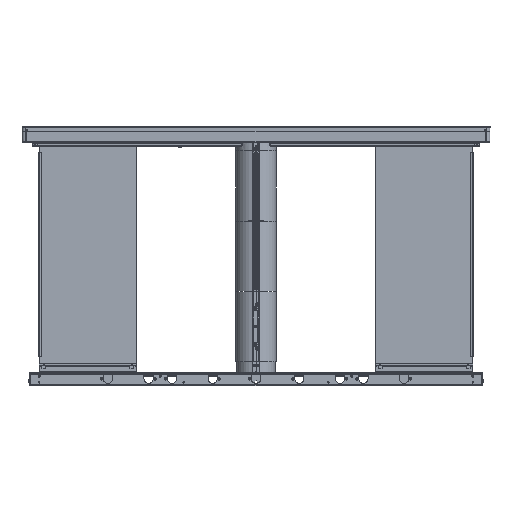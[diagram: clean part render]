
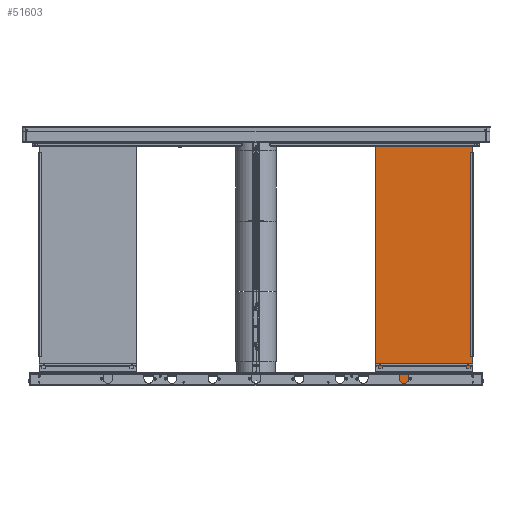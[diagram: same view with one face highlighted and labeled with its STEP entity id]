
A CAD part, top view. The second image highlights one B-rep face of the part: STEP entity #51603.
In plain terms, the highlighted planar face has unit normal (0, 0, 1) as drawn and (0, 0, -1) by its records, which use the part's own axes.
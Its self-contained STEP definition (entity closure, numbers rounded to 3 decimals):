
#129 = DIRECTION ( 'NONE',  ( 1., 0., 0. ) ) ;
#938 = CARTESIAN_POINT ( 'NONE',  ( 0., -427., -6. ) ) ;
#1561 = EDGE_CURVE ( 'NONE', #16846, #75870, #13153, .T. ) ;
#1626 = EDGE_CURVE ( 'NONE', #21088, #65474, #34141, .T. ) ;
#1930 = AXIS2_PLACEMENT_3D ( 'NONE', #72600, #6724, #58561 ) ;
#2759 = LINE ( 'NONE', #30409, #39268 ) ;
#3173 = FACE_BOUND ( 'NONE', #45511, .T. ) ;
#4157 = EDGE_CURVE ( 'NONE', #65474, #21088, #44475, .T. ) ;
#5748 = CARTESIAN_POINT ( 'NONE',  ( 184., -457., -6. ) ) ;
#5985 = VERTEX_POINT ( 'NONE', #5748 ) ;
#6399 = VECTOR ( 'NONE', #76410, 1000. ) ;
#6724 = DIRECTION ( 'NONE',  ( 0., 0., 1. ) ) ;
#9213 = VERTEX_POINT ( 'NONE', #84242 ) ;
#9472 = ORIENTED_EDGE ( 'NONE', *, *, #1626, .T. ) ;
#10504 = EDGE_CURVE ( 'NONE', #39227, #9213, #70192, .T. ) ;
#11592 = CARTESIAN_POINT ( 'NONE',  ( 125., -427., -6. ) ) ;
#13014 = CIRCLE ( 'NONE', #24234, 7.5 ) ;
#13153 = CIRCLE ( 'NONE', #1930, 7.5 ) ;
#14206 = VECTOR ( 'NONE', #79469, 1000. ) ;
#16327 = DIRECTION ( 'NONE',  ( 0., 0., 1. ) ) ;
#16846 = VERTEX_POINT ( 'NONE', #81472 ) ;
#17059 = AXIS2_PLACEMENT_3D ( 'NONE', #43024, #43445, #24596 ) ;
#17606 = EDGE_CURVE ( 'NONE', #24871, #5985, #2759, .T. ) ;
#18319 = EDGE_LOOP ( 'NONE', ( #29691, #84879, #62265, #36008 ) ) ;
#19882 = DIRECTION ( 'NONE',  ( 0., 0., 1. ) ) ;
#21088 = VERTEX_POINT ( 'NONE', #67923 ) ;
#21785 = VERTEX_POINT ( 'NONE', #85823 ) ;
#22792 = VECTOR ( 'NONE', #46217, 1000. ) ;
#23730 = DIRECTION ( 'NONE',  ( 0., 0., 1. ) ) ;
#24234 = AXIS2_PLACEMENT_3D ( 'NONE', #27309, #19882, #47515 ) ;
#24596 = DIRECTION ( 'NONE',  ( 1., 0., 0. ) ) ;
#24871 = VERTEX_POINT ( 'NONE', #63416 ) ;
#27309 = CARTESIAN_POINT ( 'NONE',  ( 0., -427., -6. ) ) ;
#27703 = DIRECTION ( 'NONE',  ( 0., 0., 1. ) ) ;
#29087 = AXIS2_PLACEMENT_3D ( 'NONE', #35158, #23730, #75109 ) ;
#29394 = ORIENTED_EDGE ( 'NONE', *, *, #1561, .T. ) ;
#29691 = ORIENTED_EDGE ( 'NONE', *, *, #34889, .T. ) ;
#30362 = FACE_BOUND ( 'NONE', #41969, .T. ) ;
#30409 = CARTESIAN_POINT ( 'NONE',  ( 184., -457.5, -6. ) ) ;
#32303 = EDGE_CURVE ( 'NONE', #75870, #16846, #32465, .T. ) ;
#32402 = EDGE_CURVE ( 'NONE', #5985, #21785, #52670, .T. ) ;
#32465 = CIRCLE ( 'NONE', #17059, 7.5 ) ;
#34141 = CIRCLE ( 'NONE', #36944, 7.5 ) ;
#34889 = EDGE_CURVE ( 'NONE', #21785, #57358, #44014, .T. ) ;
#34941 = EDGE_CURVE ( 'NONE', #9213, #39227, #13014, .T. ) ;
#35158 = CARTESIAN_POINT ( 'NONE',  ( 125., -427., -6. ) ) ;
#36008 = ORIENTED_EDGE ( 'NONE', *, *, #32402, .T. ) ;
#36312 = CARTESIAN_POINT ( 'NONE',  ( -117.5, -427., -6. ) ) ;
#36944 = AXIS2_PLACEMENT_3D ( 'NONE', #11592, #66464, #129 ) ;
#37414 = DIRECTION ( 'NONE',  ( 0., -1., 0. ) ) ;
#38251 = PLANE ( 'NONE',  #85617 ) ;
#39227 = VERTEX_POINT ( 'NONE', #53347 ) ;
#39268 = VECTOR ( 'NONE', #37414, 1000. ) ;
#39613 = CARTESIAN_POINT ( 'NONE',  ( -184., -457.5, -6. ) ) ;
#41969 = EDGE_LOOP ( 'NONE', ( #9472, #83141 ) ) ;
#42577 = CARTESIAN_POINT ( 'NONE',  ( -185., 457., -6. ) ) ;
#43024 = CARTESIAN_POINT ( 'NONE',  ( -125., -427., -6. ) ) ;
#43445 = DIRECTION ( 'NONE',  ( 0., 0., 1. ) ) ;
#44014 = LINE ( 'NONE', #39613, #22792 ) ;
#44475 = CIRCLE ( 'NONE', #29087, 7.5 ) ;
#45511 = EDGE_LOOP ( 'NONE', ( #68540, #81401 ) ) ;
#46217 = DIRECTION ( 'NONE',  ( 0., 1., 0. ) ) ;
#46517 = CARTESIAN_POINT ( 'NONE',  ( -184., 457., -6. ) ) ;
#47515 = DIRECTION ( 'NONE',  ( 1., 0., 0. ) ) ;
#49679 = FACE_BOUND ( 'NONE', #82043, .T. ) ;
#50054 = LINE ( 'NONE', #42577, #6399 ) ;
#51603 = ADVANCED_FACE ( 'NONE', ( #30362, #3173, #49679, #77775 ), #38251, .F. ) ;
#52670 = LINE ( 'NONE', #65001, #14206 ) ;
#53347 = CARTESIAN_POINT ( 'NONE',  ( 7.5, -427., -6. ) ) ;
#56743 = ORIENTED_EDGE ( 'NONE', *, *, #32303, .T. ) ;
#57118 = EDGE_CURVE ( 'NONE', #57358, #24871, #50054, .T. ) ;
#57358 = VERTEX_POINT ( 'NONE', #46517 ) ;
#58561 = DIRECTION ( 'NONE',  ( 1., 0., 0. ) ) ;
#62265 = ORIENTED_EDGE ( 'NONE', *, *, #17606, .T. ) ;
#63416 = CARTESIAN_POINT ( 'NONE',  ( 184., 457., -6. ) ) ;
#63750 = CARTESIAN_POINT ( 'NONE',  ( -185., -457.5, -6. ) ) ;
#65001 = CARTESIAN_POINT ( 'NONE',  ( -185., -457., -6. ) ) ;
#65474 = VERTEX_POINT ( 'NONE', #80437 ) ;
#66464 = DIRECTION ( 'NONE',  ( 0., 0., 1. ) ) ;
#67923 = CARTESIAN_POINT ( 'NONE',  ( 117.5, -427., -6. ) ) ;
#68540 = ORIENTED_EDGE ( 'NONE', *, *, #34941, .T. ) ;
#70192 = CIRCLE ( 'NONE', #74371, 7.5 ) ;
#72600 = CARTESIAN_POINT ( 'NONE',  ( -125., -427., -6. ) ) ;
#74371 = AXIS2_PLACEMENT_3D ( 'NONE', #938, #27703, #82608 ) ;
#75109 = DIRECTION ( 'NONE',  ( 1., 0., 0. ) ) ;
#75870 = VERTEX_POINT ( 'NONE', #36312 ) ;
#76410 = DIRECTION ( 'NONE',  ( 1., 0., 0. ) ) ;
#76470 = DIRECTION ( 'NONE',  ( 1., 0., 0. ) ) ;
#77775 = FACE_OUTER_BOUND ( 'NONE', #18319, .T. ) ;
#79469 = DIRECTION ( 'NONE',  ( -1., 0., 0. ) ) ;
#80437 = CARTESIAN_POINT ( 'NONE',  ( 132.5, -427., -6. ) ) ;
#81401 = ORIENTED_EDGE ( 'NONE', *, *, #10504, .T. ) ;
#81472 = CARTESIAN_POINT ( 'NONE',  ( -132.5, -427., -6. ) ) ;
#82043 = EDGE_LOOP ( 'NONE', ( #29394, #56743 ) ) ;
#82608 = DIRECTION ( 'NONE',  ( 1., 0., 0. ) ) ;
#83141 = ORIENTED_EDGE ( 'NONE', *, *, #4157, .T. ) ;
#84242 = CARTESIAN_POINT ( 'NONE',  ( -7.5, -427., -6. ) ) ;
#84879 = ORIENTED_EDGE ( 'NONE', *, *, #57118, .T. ) ;
#85617 = AXIS2_PLACEMENT_3D ( 'NONE', #63750, #16327, #76470 ) ;
#85823 = CARTESIAN_POINT ( 'NONE',  ( -184., -457., -6. ) ) ;
